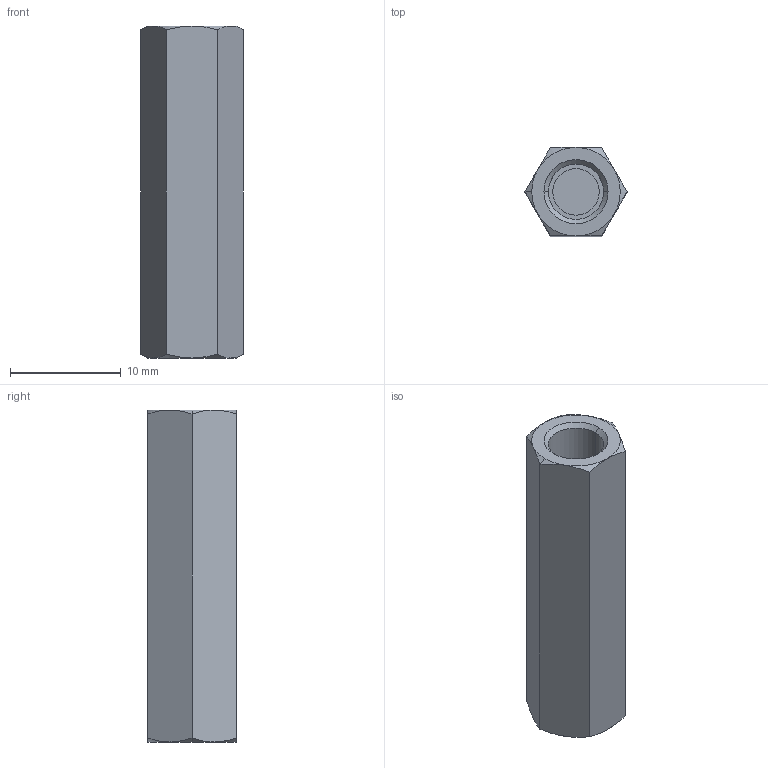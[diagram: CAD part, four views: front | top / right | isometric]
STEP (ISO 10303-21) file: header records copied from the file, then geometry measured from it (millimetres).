
FILE_DESCRIPTION (( 'STEP AP203' ), '1' );
FILE_NAME ('N0503.050-030-NP.step', '2025-02-27T14:44:46', ( '' ), ( '' ), 'SwSTEP 2.0', 'SolidWorks 2019', '' );
FILE_SCHEMA (( 'CONFIG_CONTROL_DESIGN' ));
Length unit declared in the file: millimetre
Products named in the file (1): N0503.050-030-NP
Bounding box: 9.24 x 8 x 30 mm (x, y, z)
Volume: 1227.5 mm3; surface area: 1278.1 mm2
Topology: 1 solids, 1 shells, 39 faces, 82 edges, 47 vertices
Faces by surface type: cone 20, plane 11, cylinder 8
Entity records: 1149 total; most frequent: CARTESIAN_POINT 271, DIRECTION 170, ORIENTED_EDGE 160, EDGE_CURVE 80, AXIS2_PLACEMENT_3D 74, VERTEX_POINT 47, EDGE_LOOP 43, FACE_OUTER_BOUND 39
